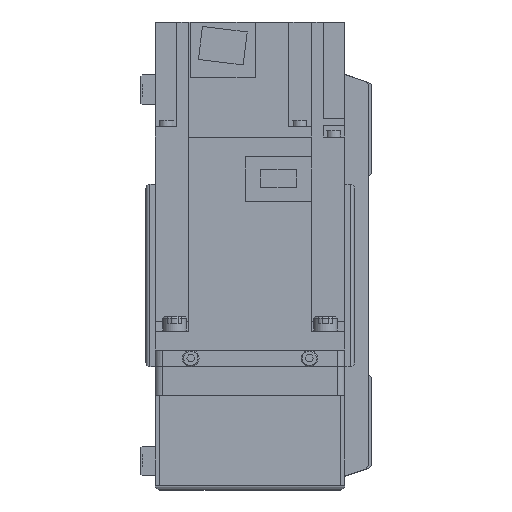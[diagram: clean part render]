
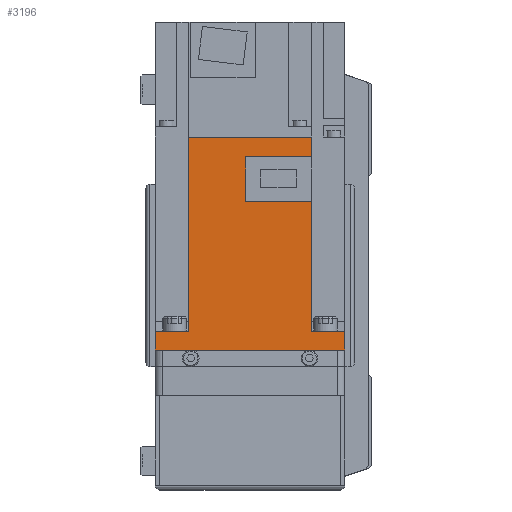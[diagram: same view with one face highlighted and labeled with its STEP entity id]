
A CAD part, left-side view. The second image highlights one B-rep face of the part: STEP entity #3196.
In plain terms, the highlighted planar face has unit normal (-1, 0, 0) as drawn and (1, 0, 0) by its records, which use the part's own axes.
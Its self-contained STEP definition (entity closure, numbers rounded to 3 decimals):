
#3196 = ADVANCED_FACE( '', ( #6597 ), #6598, .F. );
#6597 = FACE_OUTER_BOUND( '', #9967, .T. );
#6598 = PLANE( '', #9968 );
#9967 = EDGE_LOOP( '', ( #19006, #19007, #19008, #19009, #19010, #19011, #19012, #19013, #19014, #19015, #19016, #19017 ) );
#9968 = AXIS2_PLACEMENT_3D( '', #19018, #19019, #19020 );
#19006 = ORIENTED_EDGE( '', *, *, #22414, .F. );
#19007 = ORIENTED_EDGE( '', *, *, #20885, .F. );
#19008 = ORIENTED_EDGE( '', *, *, #22279, .F. );
#19009 = ORIENTED_EDGE( '', *, *, #22289, .T. );
#19010 = ORIENTED_EDGE( '', *, *, #21969, .F. );
#19011 = ORIENTED_EDGE( '', *, *, #19156, .T. );
#19012 = ORIENTED_EDGE( '', *, *, #22558, .T. );
#19013 = ORIENTED_EDGE( '', *, *, #21940, .F. );
#19014 = ORIENTED_EDGE( '', *, *, #22229, .F. );
#19015 = ORIENTED_EDGE( '', *, *, #20886, .F. );
#19016 = ORIENTED_EDGE( '', *, *, #19844, .F. );
#19017 = ORIENTED_EDGE( '', *, *, #19232, .F. );
#19018 = CARTESIAN_POINT( '', ( 40., 89.8, 40. ) );
#19019 = DIRECTION( '', ( -1., 0., 0. ) );
#19020 = DIRECTION( '', ( 0., 0., 1. ) );
#19156 = EDGE_CURVE( '', #22711, #22709, #22712, .T. );
#19232 = EDGE_CURVE( '', #22848, #22849, #22850, .T. );
#19844 = EDGE_CURVE( '', #22849, #23922, #23923, .T. );
#20885 = EDGE_CURVE( '', #25634, #24119, #25636, .T. );
#20886 = EDGE_CURVE( '', #23922, #25637, #25638, .T. );
#21940 = EDGE_CURVE( '', #27102, #27104, #27105, .T. );
#21969 = EDGE_CURVE( '', #22711, #27144, #27145, .T. );
#22229 = EDGE_CURVE( '', #25637, #27102, #27455, .T. );
#22279 = EDGE_CURVE( '', #27512, #25634, #27514, .T. );
#22289 = EDGE_CURVE( '', #27512, #27144, #27525, .T. );
#22414 = EDGE_CURVE( '', #24119, #22848, #27672, .T. );
#22558 = EDGE_CURVE( '', #22709, #27104, #27822, .T. );
#22709 = VERTEX_POINT( '', #27990 );
#22711 = VERTEX_POINT( '', #27993 );
#22712 = LINE( '', #27994, #27995 );
#22848 = VERTEX_POINT( '', #28185 );
#22849 = VERTEX_POINT( '', #28186 );
#22850 = LINE( '', #28187, #28188 );
#23922 = VERTEX_POINT( '', #29727 );
#23923 = LINE( '', #29728, #29729 );
#24119 = VERTEX_POINT( '', #29981 );
#25634 = VERTEX_POINT( '', #32306 );
#25636 = LINE( '', #32309, #32310 );
#25637 = VERTEX_POINT( '', #32311 );
#25638 = LINE( '', #32312, #32313 );
#27102 = VERTEX_POINT( '', #34612 );
#27104 = VERTEX_POINT( '', #34615 );
#27105 = LINE( '', #34616, #34617 );
#27144 = VERTEX_POINT( '', #34675 );
#27145 = LINE( '', #34676, #34677 );
#27455 = LINE( '', #35139, #35140 );
#27512 = VERTEX_POINT( '', #35211 );
#27514 = LINE( '', #35214, #35215 );
#27525 = LINE( '', #35228, #35229 );
#27672 = LINE( '', #35420, #35421 );
#27822 = LINE( '', #35651, #35652 );
#27990 = CARTESIAN_POINT( '', ( 40., 0., 40. ) );
#27993 = CARTESIAN_POINT( '', ( 40., 8., 40. ) );
#27994 = CARTESIAN_POINT( '', ( 40., 89.8, 40. ) );
#27995 = VECTOR( '', #35794, 1000. );
#28185 = CARTESIAN_POINT( '', ( 40., 81.4, 1.8 ) );
#28186 = CARTESIAN_POINT( '', ( 40., 62.8, 1.8 ) );
#28187 = CARTESIAN_POINT( '', ( 40., 81.4, 1.8 ) );
#28188 = VECTOR( '', #35901, 1000. );
#29727 = CARTESIAN_POINT( '', ( 40., 62.8, -25.95 ) );
#29728 = CARTESIAN_POINT( '', ( 40., 62.8, 1.8 ) );
#29729 = VECTOR( '', #36683, 1000. );
#29981 = CARTESIAN_POINT( '', ( 40., 81.4, -25.95 ) );
#32306 = CARTESIAN_POINT( '', ( 40., 89.8, -25.95 ) );
#32309 = CARTESIAN_POINT( '', ( 40., 158., -25.95 ) );
#32310 = VECTOR( '', #38074, 1000. );
#32311 = CARTESIAN_POINT( '', ( 40., 8., -25.95 ) );
#32312 = CARTESIAN_POINT( '', ( 40., 158., -25.95 ) );
#32313 = VECTOR( '', #38075, 1000. );
#34612 = CARTESIAN_POINT( '', ( 40., 8., -40. ) );
#34615 = CARTESIAN_POINT( '', ( 40., 0., -40. ) );
#34616 = CARTESIAN_POINT( '', ( 40., 89.8, -40. ) );
#34617 = VECTOR( '', #39289, 1000. );
#34675 = CARTESIAN_POINT( '', ( 40., 8., 25.95 ) );
#34676 = CARTESIAN_POINT( '', ( 40., 8., 40. ) );
#34677 = VECTOR( '', #39316, 1000. );
#35139 = CARTESIAN_POINT( '', ( 40., 8., 40. ) );
#35140 = VECTOR( '', #39552, 1000. );
#35211 = CARTESIAN_POINT( '', ( 40., 89.8, 25.95 ) );
#35214 = CARTESIAN_POINT( '', ( 40., 89.8, 40. ) );
#35215 = VECTOR( '', #39598, 1000. );
#35228 = CARTESIAN_POINT( '', ( 40., 158., 25.95 ) );
#35229 = VECTOR( '', #39604, 1000. );
#35420 = CARTESIAN_POINT( '', ( 40., 81.4, -26. ) );
#35421 = VECTOR( '', #39727, 1000. );
#35651 = CARTESIAN_POINT( '', ( 40., 0., 40. ) );
#35652 = VECTOR( '', #39799, 1000. );
#35794 = DIRECTION( '', ( 0., -1., 0. ) );
#35901 = DIRECTION( '', ( 0., -1., 0. ) );
#36683 = DIRECTION( '', ( 0., 0., -1. ) );
#38074 = DIRECTION( '', ( 0., -1., 0. ) );
#38075 = DIRECTION( '', ( 0., -1., 0. ) );
#39289 = DIRECTION( '', ( 0., -1., 0. ) );
#39316 = DIRECTION( '', ( 0., 0., -1. ) );
#39552 = DIRECTION( '', ( 0., 0., -1. ) );
#39598 = DIRECTION( '', ( 0., 0., -1. ) );
#39604 = DIRECTION( '', ( 0., -1., 0. ) );
#39727 = DIRECTION( '', ( 0., 0., 1. ) );
#39799 = DIRECTION( '', ( 0., 0., -1. ) );
